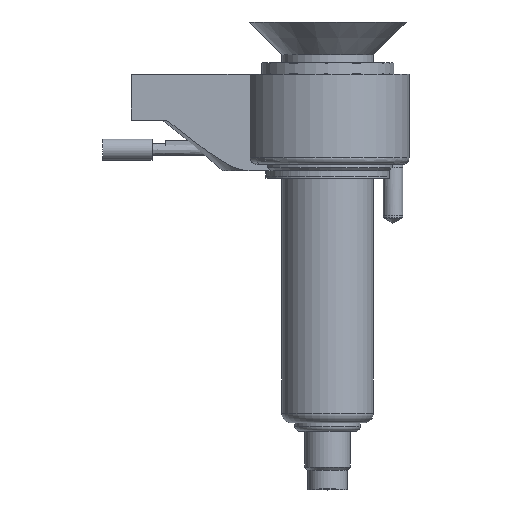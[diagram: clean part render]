
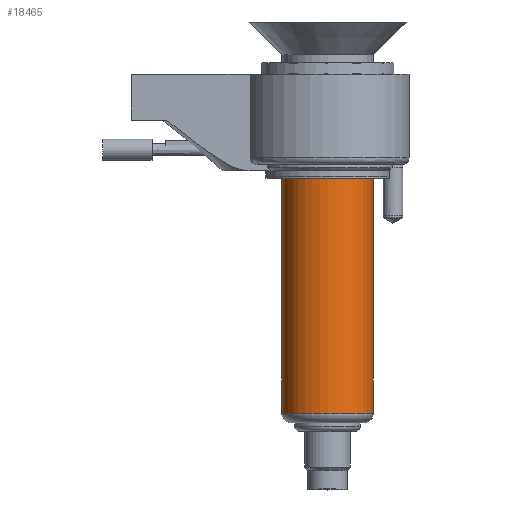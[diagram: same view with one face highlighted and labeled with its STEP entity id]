
A CAD part, top view. The second image highlights one B-rep face of the part: STEP entity #18465.
In plain terms, the highlighted cylindrical face has radius 14 mm (diameter 28 mm), a partial arc.
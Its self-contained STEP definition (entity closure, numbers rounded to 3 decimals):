
#17810=DIRECTION('',(0.,1.,0.));
#17811=VECTOR('',#17810,71.816);
#17812=CARTESIAN_POINT('',(14.,-81.816,0.));
#17813=LINE('',#17812,#17811);
#17814=DIRECTION('',(0.,1.,0.));
#17815=VECTOR('',#17814,71.816);
#17816=CARTESIAN_POINT('',(-14.,-81.816,0.));
#17817=LINE('',#17816,#17815);
#17818=CARTESIAN_POINT('',(0.,-81.816,0.));
#17819=DIRECTION('',(0.,1.,0.));
#17820=DIRECTION('',(1.,0.,0.));
#17821=AXIS2_PLACEMENT_3D('',#17818,#17819,#17820);
#17828=CARTESIAN_POINT('',(0.,-10.,0.));
#17829=DIRECTION('',(0.,1.,0.));
#17830=DIRECTION('',(1.,0.,0.));
#17831=AXIS2_PLACEMENT_3D('',#17828,#17829,#17830);
#18287=CARTESIAN_POINT('',(14.,-81.816,0.));
#18289=VERTEX_POINT('',#18287);
#18290=CARTESIAN_POINT('',(14.,-10.,0.));
#18291=VERTEX_POINT('',#18290);
#18293=CARTESIAN_POINT('',(-14.,-81.816,0.));
#18295=VERTEX_POINT('',#18293);
#18296=CARTESIAN_POINT('',(-14.,-10.,0.));
#18297=VERTEX_POINT('',#18296);
#18451=CARTESIAN_POINT('',(0.,28.103,0.));
#18452=DIRECTION('',(0.,-1.,0.));
#18453=DIRECTION('',(-1.,0.,0.));
#18454=AXIS2_PLACEMENT_3D('',#18451,#18452,#18453);
#18455=CYLINDRICAL_SURFACE('',#18454,14.);
#18457=ORIENTED_EDGE('',*,*,#18456,.T.);
#18459=ORIENTED_EDGE('',*,*,#18458,.T.);
#18461=ORIENTED_EDGE('',*,*,#18460,.F.);
#18462=ORIENTED_EDGE('',*,*,#18444,.F.);
#18463=EDGE_LOOP('',(#18457,#18459,#18461,#18462));
#18464=FACE_OUTER_BOUND('',#18463,.F.);
#18465=ADVANCED_FACE('',(#18464),#18455,.T.);
#17822=CIRCLE('',#17821,14.);
#17832=CIRCLE('',#17831,14.);
#18444=EDGE_CURVE('',#18289,#18295,#17822,.T.);
#18456=EDGE_CURVE('',#18289,#18291,#17813,.T.);
#18458=EDGE_CURVE('',#18291,#18297,#17832,.T.);
#18460=EDGE_CURVE('',#18295,#18297,#17817,.T.);
